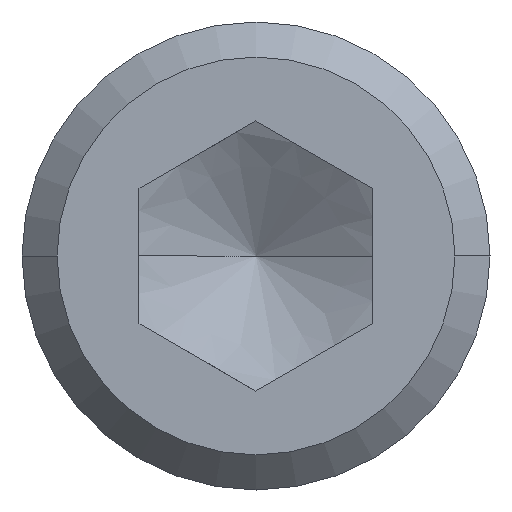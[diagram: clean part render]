
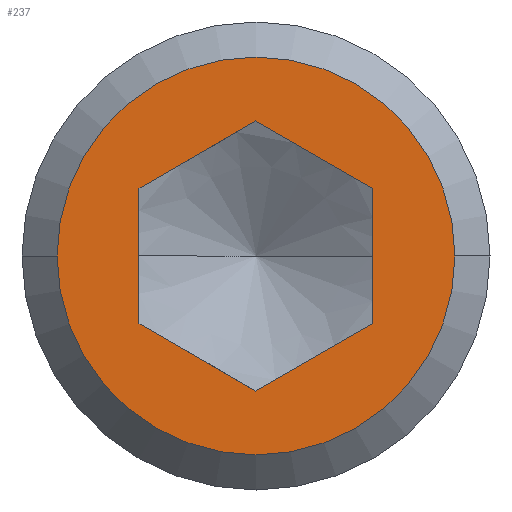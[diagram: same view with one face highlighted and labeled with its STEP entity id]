
A CAD part, left-side view. The second image highlights one B-rep face of the part: STEP entity #237.
In plain terms, the highlighted planar face has unit normal (-1, 0, 0).
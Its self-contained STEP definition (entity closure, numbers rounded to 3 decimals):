
#13 = EDGE_CURVE ( 'NONE', #430, #158, #422, .T. ) ;
#14 = LINE ( 'NONE', #131, #312 ) ;
#23 = DIRECTION ( 'NONE',  ( 0., 0., -1. ) ) ;
#33 = DIRECTION ( 'NONE',  ( 1., 0., 0. ) ) ;
#37 = CARTESIAN_POINT ( 'NONE',  ( -26., 0., -3.464 ) ) ;
#41 = CARTESIAN_POINT ( 'NONE',  ( -26., 0., 3.464 ) ) ;
#59 = EDGE_LOOP ( 'NONE', ( #75, #388 ) ) ;
#60 = CARTESIAN_POINT ( 'NONE',  ( -26., -3., -1.732 ) ) ;
#62 = EDGE_CURVE ( 'NONE', #158, #436, #14, .T. ) ;
#70 = VECTOR ( 'NONE', #261, 1000. ) ;
#75 = ORIENTED_EDGE ( 'NONE', *, *, #441, .F. ) ;
#86 = VECTOR ( 'NONE', #513, 1000. ) ;
#97 = DIRECTION ( 'NONE',  ( 0., -0.866, -0.5 ) ) ;
#131 = CARTESIAN_POINT ( 'NONE',  ( -26., 3., 0. ) ) ;
#158 = VERTEX_POINT ( 'NONE', #288 ) ;
#161 = DIRECTION ( 'NONE',  ( 0., -0.866, 0.5 ) ) ;
#166 = ORIENTED_EDGE ( 'NONE', *, *, #202, .F. ) ;
#172 = AXIS2_PLACEMENT_3D ( 'NONE', #630, #563, #206 ) ;
#177 = VERTEX_POINT ( 'NONE', #60 ) ;
#201 = VERTEX_POINT ( 'NONE', #382 ) ;
#202 = EDGE_CURVE ( 'NONE', #436, #392, #354, .T. ) ;
#206 = DIRECTION ( 'NONE',  ( 0., 1., 0. ) ) ;
#213 = VECTOR ( 'NONE', #268, 1000. ) ;
#220 = VECTOR ( 'NONE', #97, 1000. ) ;
#237 = ADVANCED_FACE ( 'NONE', ( #620, #623 ), #244, .T. ) ;
#244 = PLANE ( 'NONE',  #322 ) ;
#245 = CARTESIAN_POINT ( 'NONE',  ( -26., -3., 1.732 ) ) ;
#261 = DIRECTION ( 'NONE',  ( 0., 0., 1. ) ) ;
#262 = ORIENTED_EDGE ( 'NONE', *, *, #344, .F. ) ;
#266 = LINE ( 'NONE', #418, #482 ) ;
#268 = DIRECTION ( 'NONE',  ( 0., 0.866, -0.5 ) ) ;
#288 = CARTESIAN_POINT ( 'NONE',  ( -26., 3., 1.732 ) ) ;
#293 = DIRECTION ( 'NONE',  ( -1., 0., 0. ) ) ;
#303 = DIRECTION ( 'NONE',  ( 0., -1., 0. ) ) ;
#312 = VECTOR ( 'NONE', #23, 1000. ) ;
#322 = AXIS2_PLACEMENT_3D ( 'NONE', #461, #293, #303 ) ;
#338 = VERTEX_POINT ( 'NONE', #688 ) ;
#344 = EDGE_CURVE ( 'NONE', #392, #177, #266, .T. ) ;
#354 = LINE ( 'NONE', #575, #220 ) ;
#358 = AXIS2_PLACEMENT_3D ( 'NONE', #682, #33, #459 ) ;
#368 = CARTESIAN_POINT ( 'NONE',  ( -26., 1.5, 2.598 ) ) ;
#382 = CARTESIAN_POINT ( 'NONE',  ( -26., -5.1, 0. ) ) ;
#384 = EDGE_LOOP ( 'NONE', ( #166, #444, #665, #470, #439, #262 ) ) ;
#388 = ORIENTED_EDGE ( 'NONE', *, *, #419, .F. ) ;
#392 = VERTEX_POINT ( 'NONE', #37 ) ;
#399 = EDGE_CURVE ( 'NONE', #607, #430, #559, .T. ) ;
#418 = CARTESIAN_POINT ( 'NONE',  ( -26., -1.5, -2.598 ) ) ;
#419 = EDGE_CURVE ( 'NONE', #201, #338, #576, .T. ) ;
#422 = LINE ( 'NONE', #368, #213 ) ;
#430 = VERTEX_POINT ( 'NONE', #41 ) ;
#436 = VERTEX_POINT ( 'NONE', #517 ) ;
#439 = ORIENTED_EDGE ( 'NONE', *, *, #572, .F. ) ;
#441 = EDGE_CURVE ( 'NONE', #338, #201, #648, .T. ) ;
#444 = ORIENTED_EDGE ( 'NONE', *, *, #62, .F. ) ;
#459 = DIRECTION ( 'NONE',  ( 0., 1., 0. ) ) ;
#461 = CARTESIAN_POINT ( 'NONE',  ( -26., 5.1, 0. ) ) ;
#470 = ORIENTED_EDGE ( 'NONE', *, *, #399, .F. ) ;
#482 = VECTOR ( 'NONE', #161, 1000. ) ;
#513 = DIRECTION ( 'NONE',  ( 0., 0.866, 0.5 ) ) ;
#517 = CARTESIAN_POINT ( 'NONE',  ( -26., 3., -1.732 ) ) ;
#527 = CARTESIAN_POINT ( 'NONE',  ( -26., -3., 0. ) ) ;
#559 = LINE ( 'NONE', #671, #86 ) ;
#563 = DIRECTION ( 'NONE',  ( 1., 0., 0. ) ) ;
#572 = EDGE_CURVE ( 'NONE', #177, #607, #683, .T. ) ;
#575 = CARTESIAN_POINT ( 'NONE',  ( -26., 1.5, -2.598 ) ) ;
#576 = CIRCLE ( 'NONE', #358, 5.1 ) ;
#607 = VERTEX_POINT ( 'NONE', #245 ) ;
#620 = FACE_BOUND ( 'NONE', #384, .T. ) ;
#623 = FACE_OUTER_BOUND ( 'NONE', #59, .T. ) ;
#630 = CARTESIAN_POINT ( 'NONE',  ( -26., 0., 0. ) ) ;
#648 = CIRCLE ( 'NONE', #172, 5.1 ) ;
#665 = ORIENTED_EDGE ( 'NONE', *, *, #13, .F. ) ;
#671 = CARTESIAN_POINT ( 'NONE',  ( -26., -1.5, 2.598 ) ) ;
#682 = CARTESIAN_POINT ( 'NONE',  ( -26., 0., 0. ) ) ;
#683 = LINE ( 'NONE', #527, #70 ) ;
#688 = CARTESIAN_POINT ( 'NONE',  ( -26., 5.1, 0. ) ) ;
